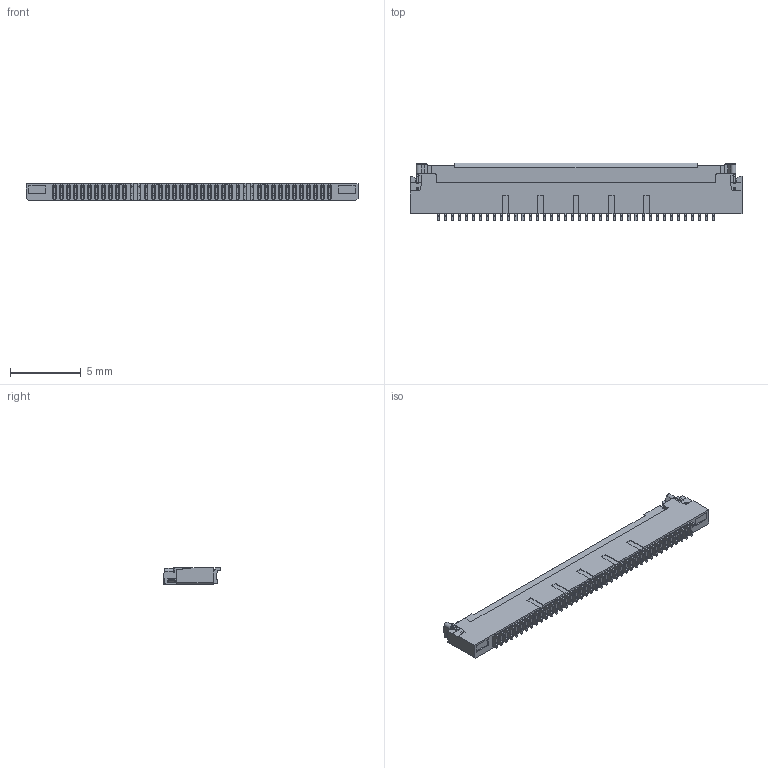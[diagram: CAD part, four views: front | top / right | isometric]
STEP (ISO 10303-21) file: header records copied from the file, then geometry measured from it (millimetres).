
FILE_DESCRIPTION((''),'2;1');
FILE_NAME('S-51695-040XX-XXX','2017-11-03T',('t00382'),(''),'PRO/ENGINEER BY PARAMETRIC TECHNOLOGY CORPORATION, 2011490','PRO/ENGINEER BY PARAMETRIC TECHNOLOGY CORPORATION, 2011490','');
FILE_SCHEMA(('AUTOMOTIVE_DESIGN { 1 0 10303 214 1 1 1 1 }'));
Products named in the file (1): S-51695-040XX-XXX
Bounding box: 23.5 x 4.05 x 1.23 mm (x, y, z)
Volume: 61.6 mm3; surface area: 404 mm2
Topology: 1 solids, 3 shells, 2953 faces, 8777 edges, 5859 vertices
Faces by surface type: plane 2189, cylinder 756, cone 8
Entity records: 118408 total; most frequent: CARTESIAN_POINT 17454, ORIENTED_EDGE 17212, DIRECTION 16194, EDGE_CURVE 8606, VECTOR 7244, LINE 7244, VERTEX_POINT 5685, AXIS2_PLACEMENT_3D 4475
